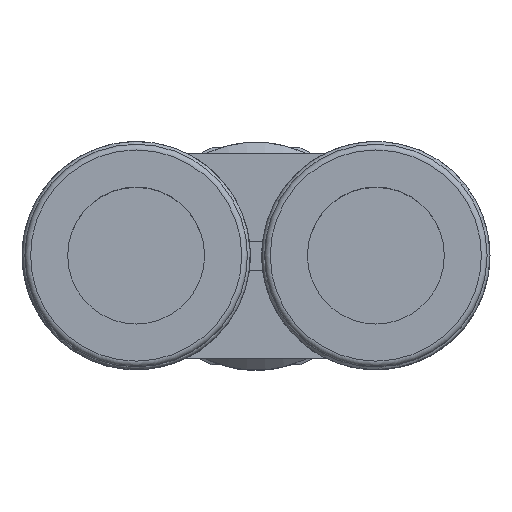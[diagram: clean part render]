
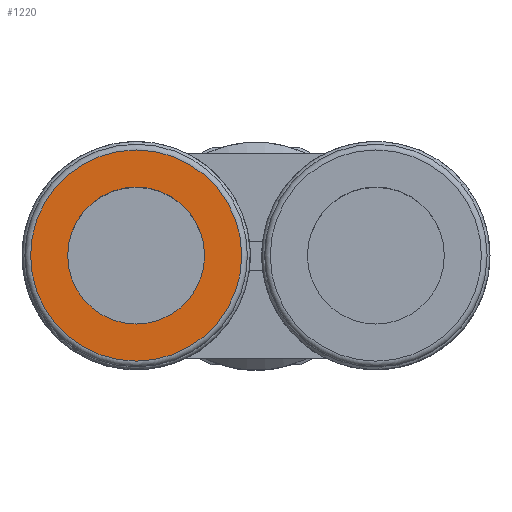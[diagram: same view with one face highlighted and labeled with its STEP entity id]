
A CAD part, top view. The second image highlights one B-rep face of the part: STEP entity #1220.
In plain terms, the highlighted planar face has unit normal (0, 0, 1).
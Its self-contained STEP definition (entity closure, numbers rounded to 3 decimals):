
#210=PLANE($,#1342);
#237=FACE_BOUND($,#380,.T.);
#238=FACE_BOUND($,#381,.T.);
#380=EDGE_LOOP($,(#947));
#381=EDGE_LOOP($,(#948));
#481=CIRCLE($,#1334,6.);
#483=CIRCLE($,#1338,9.25);
#571=VERTEX_POINT($,#2021);
#573=VERTEX_POINT($,#2027);
#709=EDGE_CURVE($,#571,#571,#481,.T.);
#711=EDGE_CURVE($,#573,#573,#483,.T.);
#947=ORIENTED_EDGE($,*,*,#709,.F.);
#948=ORIENTED_EDGE($,*,*,#711,.T.);
#1220=ADVANCED_FACE($,(#237,#238),#210,.T.);
#1334=AXIS2_PLACEMENT_3D($,#2022,#1573,#1574);
#1338=AXIS2_PLACEMENT_3D($,#2028,#1581,#1582);
#1342=AXIS2_PLACEMENT_3D($,#2034,#1589,#1590);
#1573=DIRECTION('center_axis',(0.,0.,1.));
#1574=DIRECTION('ref_axis',(-1.,0.,0.));
#1581=DIRECTION('center_axis',(0.,0.,1.));
#1582=DIRECTION('ref_axis',(1.,0.,0.));
#1589=DIRECTION('center_axis',(0.,0.,1.));
#1590=DIRECTION('ref_axis',(1.,0.,0.));
#2021=CARTESIAN_POINT('',(-16.5,0.,42.5));
#2022=CARTESIAN_POINT('Origin',(-10.5,0.,42.5));
#2027=CARTESIAN_POINT('',(-19.75,0.,42.5));
#2028=CARTESIAN_POINT('Origin',(-10.5,0.,42.5));
#2034=CARTESIAN_POINT('Origin',(-10.5,0.,42.5));
